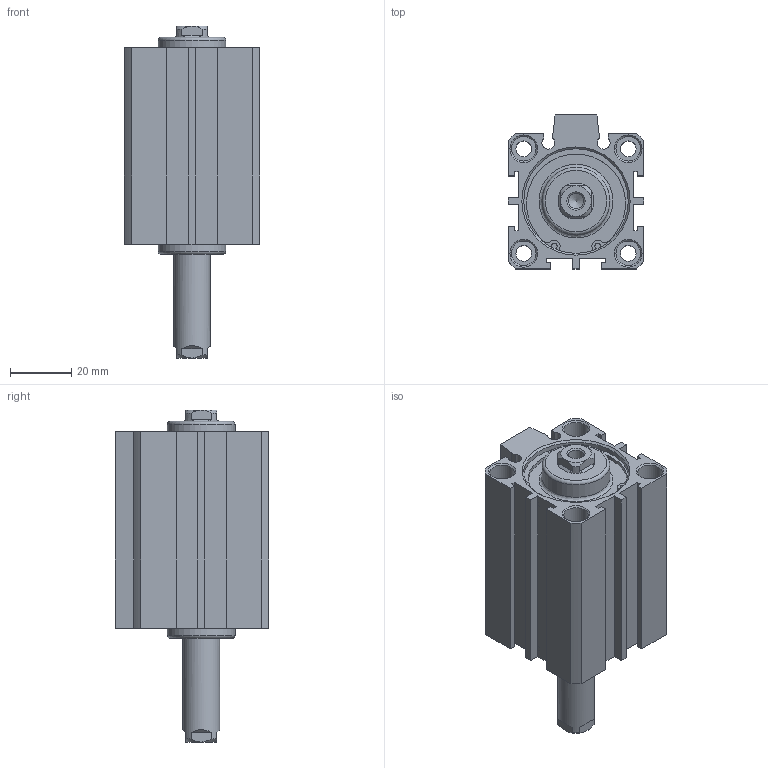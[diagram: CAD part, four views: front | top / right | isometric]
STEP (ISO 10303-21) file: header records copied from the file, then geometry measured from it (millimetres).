
FILE_DESCRIPTION((''),'2;1');
FILE_NAME('I:\3D電子目錄\氣缸\JDD\JDD-S\JDD32-S\JDD32x30-S.stp','2007-02-08T14:42:26',('662F206'),(''),'Autodesk Inventor 10','Autodesk Inventor 10','');
FILE_SCHEMA(('AUTOMOTIVE_DESIGN { 1 0 10303 214 1 1 1 1 }'));
Length unit declared in the file: millimetre
Products named in the file (3): JDD32-S; R 形環 35
Assembly tree (3 placements, depth 2):
  JDD32-S
    JDD32-S
    R 形環 35  x2
Bounding box: 44 x 50 x 108 mm (x, y, z)
Volume: 111419.2 mm3; surface area: 30547 mm2
Topology: 3 solids, 3 shells, 177 faces, 425 edges, 276 vertices
Faces by surface type: plane 94, cylinder 49, cone 22, bspline 10, torus 2
Full cylindrical faces by diameter (mm): 1.9 x4, 2.2 x2, 5.1 x4, 8 x8, 12 x1, 22 x2, 34 x4, 36 x2
Entity records: 4715 total; most frequent: CARTESIAN_POINT 983, DIRECTION 774, ORIENTED_EDGE 674, EDGE_CURVE 337, AXIS2_PLACEMENT_3D 292, EDGE_LOOP 248, VERTEX_POINT 247, VECTOR 190
